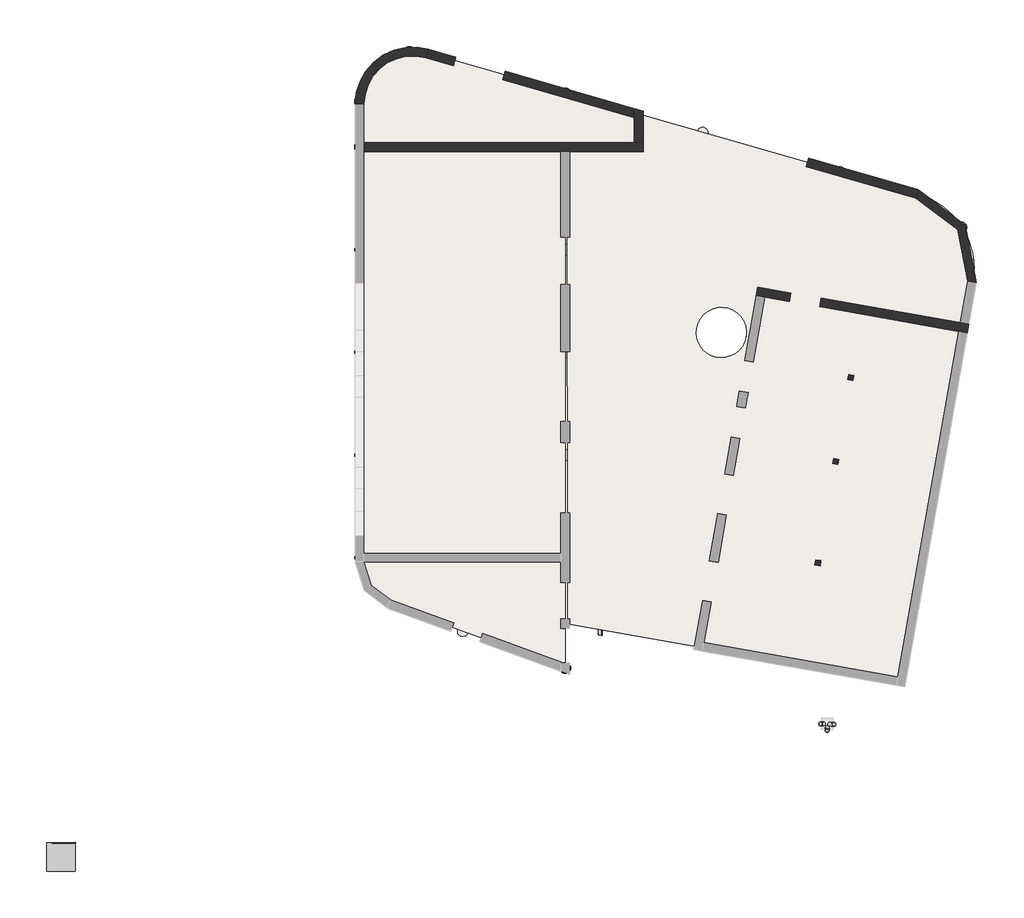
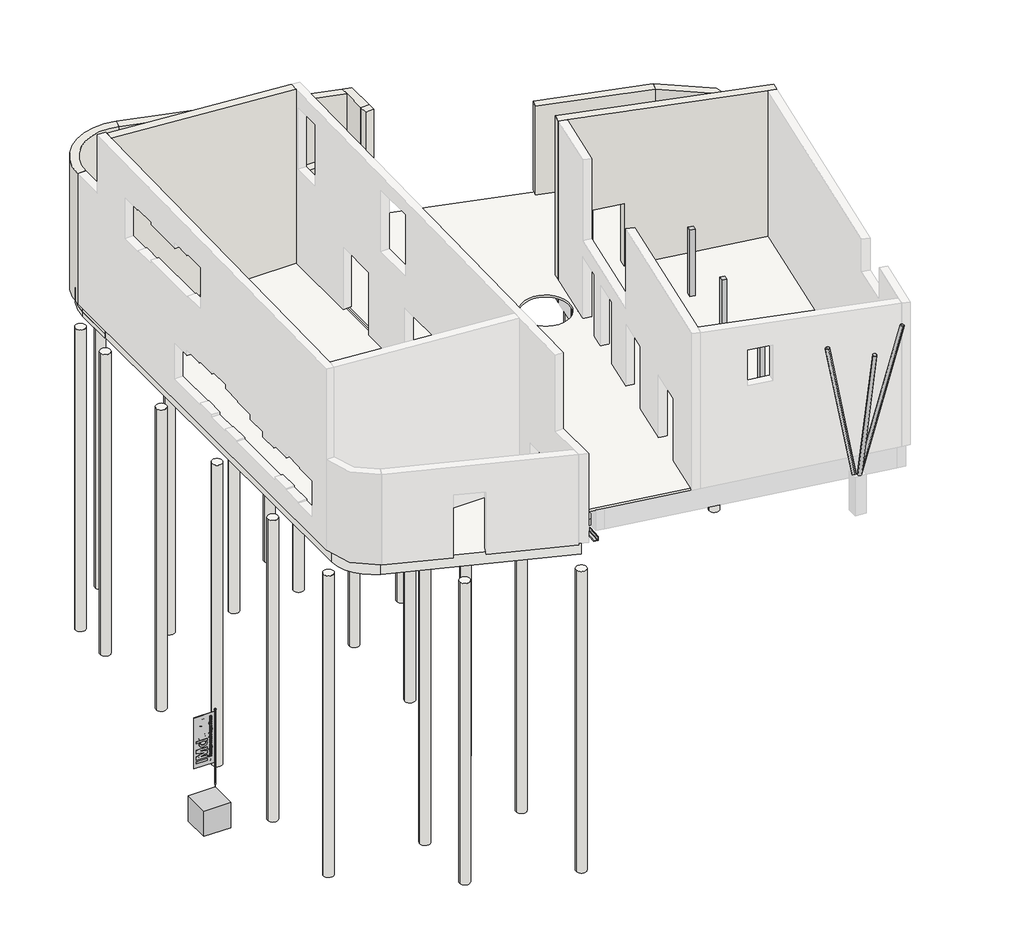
# One storey, part 2 of 2: 22 footings, 10 beams, 7 walls, 5 slabs, 3 columns, 1 geographic element.
"""IFC4 building model written with IfcOpenShell, lengths in millimetres."""

from ifc_helpers import new_model, si_unit, point, frame, frame_2d, origin, origin_with_axes, place, context, project, spatial, polyline, circle_curve, trimmed, segment, composite_curve, outline, extrude, faceted_brep, transform, mapped, element, save
from components import l150x150x15_ea1ecd1c, nlrs_28_sf_lib_balk_buis_generiek_isr_22184801, nlrs_28_sf_lib_balk_buis_generiek_isr_847ffcc4, nlrs_28_sf_lib_balk_buis_generiek_isr_6dce7139, column_180x180_gl_39b06fff, footing_31d2c532, geographic_element_c72ebb9d

model = new_model("IFC4")

# Units and contexts
model_context = context("Model", 3, world=origin())
ifc_project = project(units=[si_unit("LENGTHUNIT", "METRE", prefix="MILLI")], contexts=[model_context])

# Site, building, storey
site = spatial("IfcSite", under=ifc_project)
building = spatial("IfcBuilding", under=site)
storey = spatial("IfcBuildingStorey", under=building, Name="00 begane grond b.k. ruwe vloer", Elevation=-70.0)

# Beams
placement = place(None, origin())
element("IfcBeam", 1, ObjectType="NLRS_16_WA Funderingsbalk_beton_prefab_300x810", at=placement, inside=storey, context=model_context, shape_type="Brep", body=[
    faceted_brep([(23878.2305971, 19190.619915, -890.0), (24173.685605, 19138.5974359, -890.0), (30861.3610293, 17961.0595862, -890.0), (30861.3610293, 17961.0595862, -80.0), (24173.685605, 19138.5974359, -80.0), (23878.2305971, 19190.619915, -80.0), (23930.2530762, 19486.0749228, -890.0), (23930.2530762, 19486.0749228, -80.0), (30913.4457286, 18256.5036386, -80.0), (30913.4457286, 18256.5036386, -890.0)], [[[0, 1, 2, 3, 4, 5]], [[6, 7, 8, 9]], [[2, 1, 0, 6, 9]], [[5, 4, 3, 8, 7]], [[0, 5, 7, 6]], [[3, 2, 9, 8]]]),
])
element("IfcBeam", 2, ObjectType="NLRS_16_WA Funderingsbalk_beton_prefab_300x810", at=placement, inside=storey, context=model_context, shape_type="SweptSolid", body=[
    extrude(outline(composite_curve([segment(polyline([(31467.7293021, 19672.6543364), (31172.2852563, 19724.7390344)]), True, "CONTINUOUS"), segment(trimmed(circle_curve(frame_2d((28652.1475452, 20169.021509)), 2559.0), [point((31172.2852563, 19724.7390344))], [point((31195.3065862, 20453.315533))], True, "CARTESIAN"), True, "CONTINUOUS"), segment(polyline([(31195.3065862, 20453.315533), (31498.2699561, 20440.0717295)]), True, "CONTINUOUS"), segment(trimmed(circle_curve(frame_2d((28652.1475452, 20169.021509)), 2859.0), [point((31498.2699561, 20440.0717295))], [point((31467.7293021, 19672.6543364))], False, "CARTESIAN"), True, "CONTINUOUS")], self_intersect=False)), frame((0.0, 0.0, -890.0), z_axis=(0.0, 0.0, 1.0), x_axis=(1.0, 0.0, 0.0)), (0.0, 0.0, 1.0), 810.0),
])
element("IfcBeam", 3, ObjectType="NLRS_16_WA Funderingsbalk_beton_prefab_300x810", at=placement, inside=storey, context=model_context, shape_type="SweptSolid", body=[
    extrude(outline(polyline([(27358.613544, 16441.6160084), (27306.591065, 16146.1610005), (27011.1360571, 16198.1834796), (27063.1585361, 16493.6384874), (27358.613544, 16441.6160084)])), frame((0.0, 0.0, -890.0), z_axis=(0.0, 0.0, 1.0), x_axis=(1.0, 0.0, 0.0)), (0.0, 0.0, 1.0), 810.0),
])
element("IfcBeam", 4, ObjectType="NLRS_16_WA Funderingsbalk_beton_prefab_300x810", at=placement, inside=storey, context=model_context, shape_type="SweptSolid", body=[
    extrude(outline(composite_curve([segment(trimmed(circle_curve(frame_2d((28652.1475452, 20169.021509)), 2859.0), [point((31453.0748743, 20742.3338997))], [point((31498.2699561, 20440.0717295))], False, "CARTESIAN"), True, "CONTINUOUS"), segment(polyline([(31498.2699561, 20440.0717295), (31195.2654149, 20453.3173328), (31145.9156572, 20755.7611213), (31453.0748743, 20742.3338997)]), True, "CONTINUOUS")], self_intersect=False)), frame((0.0, 0.0, -890.0), z_axis=(0.0, 0.0, 1.0), x_axis=(1.0, 0.0, 0.0)), (0.0, 0.0, 1.0), 810.0),
])
element("IfcBeam", 5, ObjectType="NLRS_16_WA Funderingsbalk_beton_prefab_150x810", at=placement, inside=storey, context=model_context, shape_type="Brep", body=[
    faceted_brep([(20188.339926, 16663.7126106, -890.0), (20336.061089, 16637.6653839, -890.0), (21960.9415278, 16351.1551221, -890.0), (21960.9415278, 16351.1551221, -80.0), (20336.061089, 16637.6653839, -80.0), (20188.339926, 16663.7126106, -80.0), (20214.3871527, 16811.4337735, -890.0), (20214.3871527, 16811.4337735, -80.0), (21986.9887544, 16498.8762851, -80.0), (21986.9887544, 16498.8762851, -890.0)], [[[0, 1, 2, 3, 4, 5]], [[6, 7, 8, 9]], [[2, 1, 0, 6, 9]], [[5, 4, 3, 8, 7]], [[0, 5, 7, 6]], [[3, 2, 9, 8]]]),
])
element("IfcBeam", 6, ObjectType="NLRS_16_WA Funderingsbalk_beton_prefab_150x810", at=placement, inside=storey, context=model_context, shape_type="SweptSolid", body=[
    extrude(outline(polyline([(23672.6945019, 17739.5254594), (23663.9952811, 17690.1897268), (23516.6033439, 17718.1040854), (23524.6441132, 17763.7055541), (23672.6945019, 17739.5254594)])), frame((0.0, 0.0, -890.0), z_axis=(0.0, 0.0, 1.0), x_axis=(1.0, 0.0, 0.0)), (0.0, 0.0, 1.0), 810.0),
])
l150x150x15_shape = l150x150x15_ea1ecd1c(model_context)
element("IfcBeam", 7, ObjectType="NLRS_28_SF_LIB_balk hoeklijn_generiek_ISR : L150x150x15", at=placement, inside=storey, context=model_context, shape_type="MappedRepresentation", body=[
    mapped(l150x150x15_shape, transform((18475.0068968, 7512.8857458, -1140.0), x_axis=(-0.04367249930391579, -0.9990459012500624, 0.0), y_axis=(0.9990459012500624, -0.04367249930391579, 0.0), z_axis=(0.0, 0.0, 1.0))),
])
nlrs_28_sf_lib_balk_buis_generiek_isr_shape = nlrs_28_sf_lib_balk_buis_generiek_isr_22184801(model_context)
element("IfcBeam", 8, ObjectType="NLRS_28_SF_LIB_balk buis_generiek_ISR : ø139.7x8", at=placement, inside=storey, context=model_context, shape_type="MappedRepresentation", body=[
    mapped(nlrs_28_sf_lib_balk_buis_generiek_isr_shape, transform((25716.7513152, 4127.4598895, 3301.4002703), x_axis=(-0.19118905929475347, -0.017539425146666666, 0.9813965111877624), y_axis=(-0.030281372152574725, -0.999259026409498, -0.023757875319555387), z_axis=(0.9810860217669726, -0.034260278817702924, 0.1905162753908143))),
])
nlrs_28_sf_lib_balk_buis_generiek_isr_2_shape = nlrs_28_sf_lib_balk_buis_generiek_isr_847ffcc4(model_context)
element("IfcBeam", 9, ObjectType="NLRS_28_SF_LIB_balk buis_generiek_ISR : ø139.7x8", at=placement, inside=storey, context=model_context, shape_type="MappedRepresentation", body=[
    mapped(nlrs_28_sf_lib_balk_buis_generiek_isr_2_shape, transform((26346.4236132, 3542.6139262, 3201.0287703), x_axis=(-0.006026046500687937, -0.19071409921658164, 0.9816271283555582), y_axis=(0.999446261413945, -0.033272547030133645, -0.0003288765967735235), z_axis=(0.03272395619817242, 0.9810815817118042, 0.1908089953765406))),
])
nlrs_28_sf_lib_balk_buis_generiek_isr_3_shape = nlrs_28_sf_lib_balk_buis_generiek_isr_6dce7139(model_context)
element("IfcBeam", 10, ObjectType="NLRS_28_SF_LIB_balk buis_generiek_ISR : ø139.7x8", at=placement, inside=storey, context=model_context, shape_type="MappedRepresentation", body=[
    mapped(nlrs_28_sf_lib_balk_buis_generiek_isr_3_shape, transform((27192.8557191, 4136.3637383, 3173.7841556), x_axis=(0.2821906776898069, -0.00896482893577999, 0.9593164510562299), y_axis=(0.03464865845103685, 0.9993991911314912, -0.0008527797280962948), z_axis=(-0.9587324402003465, 0.03347967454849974, 0.282331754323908))),
])

# Columns
column_180x180_gl_shape = column_180x180_gl_39b06fff(model_context)
element("IfcColumn", 11, ObjectType="NLRS_28_SC_TLB_kolom vierkant hout_generiek_ISR : 180x180 (GL)", at=placement, inside=storey, context=model_context, shape_type="MappedRepresentation", body=[
    mapped(column_180x180_gl_shape, transform((26036.8769212, 9820.4576345, 0.0), x_axis=(0.9848077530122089, -0.17364817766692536, 0.0), y_axis=(0.17364817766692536, 0.9848077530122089, 0.0), z_axis=(0.0, 0.0, 1.0))),
])
element("IfcColumn", 12, ObjectType="NLRS_28_SC_TLB_kolom vierkant hout_generiek_ISR : 180x180 (GL)", at=placement, inside=storey, context=model_context, shape_type="MappedRepresentation", body=[
    mapped(column_180x180_gl_shape, transform((26662.0103604, 13365.7655428, 0.0), x_axis=(0.9848077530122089, -0.17364817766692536, 0.0), y_axis=(0.17364817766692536, 0.9848077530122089, 0.0), z_axis=(0.0, 0.0, 1.0))),
])
element("IfcColumn", 13, ObjectType="NLRS_28_SC_TLB_kolom vierkant hout_generiek_ISR : 180x180 (GL)", at=placement, inside=storey, context=model_context, shape_type="MappedRepresentation", body=[
    mapped(column_180x180_gl_shape, transform((27182.9548934, 16320.1888018, 0.0), x_axis=(0.9848077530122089, -0.17364817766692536, 0.0), y_axis=(0.17364817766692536, 0.9848077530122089, 0.0), z_axis=(0.0, 0.0, 1.0))),
])

# Footings
footing_shape = footing_31d2c532(model_context)
element("IfcFooting", 14, ObjectType="NLRS_17_SFO_TLB_funderingspaal rond_gen_ISR : Type 01_ø380/450_Fd=900kN", at=placement, inside=storey, context=model_context, shape_type="MappedRepresentation", body=[
    mapped(footing_shape, transform((9984.0, 24397.0, 0.0), x_axis=(1.0, 0.0, 0.0), y_axis=(0.0, 1.0, 0.0), z_axis=(0.0, 0.0, 1.0))),
])
element("IfcFooting", 15, ObjectType="NLRS_17_SFO_TLB_funderingspaal rond_gen_ISR : Type 01_ø380/450_Fd=900kN", at=placement, inside=storey, context=model_context, shape_type="MappedRepresentation", body=[
    mapped(footing_shape, transform((17187.0, 24397.0, 0.0), x_axis=(1.0, 0.0, 0.0), y_axis=(0.0, 1.0, 0.0), z_axis=(0.0, 0.0, 1.0))),
])
element("IfcFooting", 16, ObjectType="NLRS_17_SFO_TLB_funderingspaal rond_gen_ISR : Type 01_ø380/450_Fd=900kN", at=placement, inside=storey, context=model_context, shape_type="MappedRepresentation", body=[
    mapped(footing_shape, transform((17187.0, 26276.8608353, 0.0), x_axis=(1.0, 0.0, 0.0), y_axis=(0.0, 1.0, 0.0), z_axis=(0.0, 0.0, 1.0))),
])
element("IfcFooting", 17, ObjectType="NLRS_17_SFO_TLB_funderingspaal rond_gen_ISR : Type 01_ø380/450_Fd=900kN", at=placement, inside=storey, context=model_context, shape_type="MappedRepresentation", body=[
    mapped(footing_shape, transform((17187.0, 9997.0, 0.0), x_axis=(1.0, 0.0, 0.0), y_axis=(0.0, 1.0, 0.0), z_axis=(0.0, 0.0, 1.0))),
])
element("IfcFooting", 18, ObjectType="NLRS_17_SFO_TLB_funderingspaal rond_gen_ISR : Type 01_ø380/450_Fd=900kN", at=placement, inside=storey, context=model_context, shape_type="MappedRepresentation", body=[
    mapped(footing_shape, transform((9993.0, 9997.0, 0.0), x_axis=(1.0, 0.0, 0.0), y_axis=(0.0, 1.0, 0.0), z_axis=(0.0, 0.0, 1.0))),
])
element("IfcFooting", 19, ObjectType="NLRS_17_SFO_TLB_funderingspaal rond_gen_ISR : Type 01_ø380/450_Fd=900kN", at=placement, inside=storey, context=model_context, shape_type="MappedRepresentation", body=[
    mapped(footing_shape, transform((13590.0, 9997.0, 0.0), x_axis=(1.0, 0.0, 0.0), y_axis=(0.0, 1.0, 0.0), z_axis=(0.0, 0.0, 1.0))),
])
element("IfcFooting", 20, ObjectType="NLRS_17_SFO_TLB_funderingspaal rond_gen_ISR : Type 01_ø380/450_Fd=900kN", at=placement, inside=storey, context=model_context, shape_type="MappedRepresentation", body=[
    mapped(footing_shape, transform((17187.0, 6122.4716821, 0.0), x_axis=(1.0, 0.0, 0.0), y_axis=(0.0, 1.0, 0.0), z_axis=(0.0, 0.0, 1.0))),
])
element("IfcFooting", 21, ObjectType="NLRS_17_SFO_TLB_funderingspaal rond_gen_ISR : Type 01_ø380/450_Fd=900kN", at=placement, inside=storey, context=model_context, shape_type="MappedRepresentation", body=[
    mapped(footing_shape, transform((19768.6696057, 22197.0, 0.0), x_axis=(1.0, 0.0, 0.0), y_axis=(0.0, 1.0, 0.0), z_axis=(0.0, 0.0, 1.0))),
])
element("IfcFooting", 22, ObjectType="NLRS_17_SFO_TLB_funderingspaal rond_gen_ISR : Type 01_ø380/450_Fd=900kN", at=placement, inside=storey, context=model_context, shape_type="MappedRepresentation", body=[
    mapped(footing_shape, transform((31063.5922916, 21580.8594844, 0.0), x_axis=(1.0, 0.0, 0.0), y_axis=(0.0, 1.0, 0.0), z_axis=(0.0, 0.0, 1.0))),
])
element("IfcFooting", 23, ObjectType="NLRS_17_SFO_TLB_funderingspaal rond_gen_ISR : Type 01_ø380/450_Fd=900kN", at=placement, inside=storey, context=model_context, shape_type="MappedRepresentation", body=[
    mapped(footing_shape, transform((21993.3084797, 24898.6740562, 0.0), x_axis=(1.0, 0.0, 0.0), y_axis=(0.0, 1.0, 0.0), z_axis=(0.0, 0.0, 1.0))),
])
element("IfcFooting", 24, ObjectType="NLRS_17_SFO_TLB_funderingspaal rond_gen_ISR : Type 01_ø380/450_Fd=900kN", at=placement, inside=storey, context=model_context, shape_type="MappedRepresentation", body=[
    mapped(footing_shape, transform((26799.6169594, 23520.4872771, 0.0), x_axis=(1.0, 0.0, 0.0), y_axis=(0.0, 1.0, 0.0), z_axis=(0.0, 0.0, 1.0))),
])
element("IfcFooting", 25, ObjectType="NLRS_17_SFO_TLB_funderingspaal rond_gen_ISR : Type 01_ø380/450_Fd=900kN", at=placement, inside=storey, context=model_context, shape_type="MappedRepresentation", body=[
    mapped(footing_shape, transform((12385.0, 24397.0, 0.0), x_axis=(1.0, 0.0, 0.0), y_axis=(0.0, 1.0, 0.0), z_axis=(0.0, 0.0, 1.0))),
])
element("IfcFooting", 26, ObjectType="NLRS_17_SFO_TLB_funderingspaal rond_gen_ISR : Type 01_ø380/450_Fd=900kN", at=placement, inside=storey, context=model_context, shape_type="MappedRepresentation", body=[
    mapped(footing_shape, transform((14786.0, 24397.0, 0.0), x_axis=(1.0, 0.0, 0.0), y_axis=(0.0, 1.0, 0.0), z_axis=(0.0, 0.0, 1.0))),
])
element("IfcFooting", 27, ObjectType="NLRS_17_SFO_TLB_funderingspaal rond_gen_ISR : Type 01_ø380/450_Fd=900kN", at=placement, inside=storey, context=model_context, shape_type="MappedRepresentation", body=[
    mapped(footing_shape, transform((13590.0, 7428.0413225, 0.0), x_axis=(1.0, 0.0, 0.0), y_axis=(0.0, 1.0, 0.0), z_axis=(0.0, 0.0, 1.0))),
])
element("IfcFooting", 28, ObjectType="NLRS_17_SFO_TLB_funderingspaal rond_gen_ISR : Type 01_ø380/450_Fd=900kN", at=placement, inside=storey, context=model_context, shape_type="MappedRepresentation", body=[
    mapped(footing_shape, transform((9984.0, 25998.7181916, 0.0), x_axis=(1.0, 0.0, 0.0), y_axis=(0.0, 1.0, 0.0), z_axis=(0.0, 0.0, 1.0))),
])
element("IfcFooting", 29, ObjectType="NLRS_17_SFO_TLB_funderingspaal rond_gen_ISR : Type 01_ø380/450_Fd=900kN", at=placement, inside=storey, context=model_context, shape_type="MappedRepresentation", body=[
    mapped(footing_shape, transform((11719.4566353, 27734.1748269, 0.0), x_axis=(1.0, 0.0, 0.0), y_axis=(0.0, 1.0, 0.0), z_axis=(0.0, 0.0, 1.0))),
])
element("IfcFooting", 30, ObjectType="NLRS_17_SFO_TLB_funderingspaal rond_gen_ISR : Type 01_ø380/450_Fd=900kN", at=placement, inside=storey, context=model_context, shape_type="MappedRepresentation", body=[
    mapped(footing_shape, transform((17187.0, 13597.0, 0.0), x_axis=(1.0, 0.0, 0.0), y_axis=(0.0, 1.0, 0.0), z_axis=(0.0, 0.0, 1.0))),
])
element("IfcFooting", 31, ObjectType="NLRS_17_SFO_TLB_funderingspaal rond_gen_ISR : Type 01_ø380/450_Fd=900kN", at=placement, inside=storey, context=model_context, shape_type="MappedRepresentation", body=[
    mapped(footing_shape, transform((9993.0, 13597.0, 0.0), x_axis=(1.0, 0.0, 0.0), y_axis=(0.0, 1.0, 0.0), z_axis=(0.0, 0.0, 1.0))),
])
element("IfcFooting", 32, ObjectType="NLRS_17_SFO_TLB_funderingspaal rond_gen_ISR : Type 01_ø380/450_Fd=900kN", at=placement, inside=storey, context=model_context, shape_type="MappedRepresentation", body=[
    mapped(footing_shape, transform((17187.0, 17197.0, 0.0), x_axis=(1.0, 0.0, 0.0), y_axis=(0.0, 1.0, 0.0), z_axis=(0.0, 0.0, 1.0))),
])
element("IfcFooting", 33, ObjectType="NLRS_17_SFO_TLB_funderingspaal rond_gen_ISR : Type 01_ø380/450_Fd=900kN", at=placement, inside=storey, context=model_context, shape_type="MappedRepresentation", body=[
    mapped(footing_shape, transform((9993.0, 17197.0, 0.0), x_axis=(1.0, 0.0, 0.0), y_axis=(0.0, 1.0, 0.0), z_axis=(0.0, 0.0, 1.0))),
])
element("IfcFooting", 34, ObjectType="NLRS_17_SFO_TLB_funderingspaal rond_gen_ISR : Type 01_ø380/450_Fd=900kN", at=placement, inside=storey, context=model_context, shape_type="MappedRepresentation", body=[
    mapped(footing_shape, transform((17187.0, 20797.0, 0.0), x_axis=(1.0, 0.0, 0.0), y_axis=(0.0, 1.0, 0.0), z_axis=(0.0, 0.0, 1.0))),
])
element("IfcFooting", 35, ObjectType="NLRS_17_SFO_TLB_funderingspaal rond_gen_ISR : Type 01_ø380/450_Fd=900kN", at=placement, inside=storey, context=model_context, shape_type="MappedRepresentation", body=[
    mapped(footing_shape, transform((9993.0, 20797.0, 0.0), x_axis=(1.0, 0.0, 0.0), y_axis=(0.0, 1.0, 0.0), z_axis=(0.0, 0.0, 1.0))),
])

# Geographic element
geographic_element_shape = geographic_element_c72ebb9d(model_context)
element("IfcGeographicElement", 36, ObjectType="90_Site_Nulpunt kubus IMd (terrein) : 90_Kubus 1x1x1m", at=placement, inside=storey, context=model_context, shape_type="MappedRepresentation", body=[
    mapped(geographic_element_shape, transform((0.0, 0.0, 0.0), x_axis=(0.0, -1.0, 0.0), y_axis=(1.0, 0.0, 0.0), z_axis=(0.0, 0.0, 1.0))),
])

# Slabs
element("IfcSlab", 37, ObjectType="NLRS_23_FL Kanaalplaat_d=260_druklaag_d=70_geisoleerd_rc4", at=placement, inside=storey, context=model_context, shape_type="SweptSolid", body=[
    extrude(outline(composite_curve([segment(polyline([(17178.0, 24397.0), (17178.0, 6122.4716821), (11008.6060699, 8367.3360674)]), True, "CONTINUOUS"), segment(trimmed(circle_curve(frame_2d((11547.242935, 9847.6317271)), 1575.2475718), [point((11008.6060699, 8367.3360674))], [point((9975.0, 9750.3842802))], False, "CARTESIAN"), True, "CONTINUOUS"), segment(polyline([(9975.0, 9750.3842802), (9975.0, 24397.0), (17178.0, 24397.0)]), True, "CONTINUOUS")], self_intersect=False)), frame((0.0, 0.0, -540.0), z_axis=(0.0, 0.0, 1.0), x_axis=(1.0, 0.0, 0.0)), (0.0, 0.0, 1.0), 470.0),
])
element("IfcSlab", 38, ObjectType="NLRS_23_FL Beton_ihwg_d=80", at=placement, inside=storey, context=model_context, shape_type="SweptSolid", body=[
    extrude(outline(composite_curve([segment(polyline([(17260.5531417, 7673.8382916), (17257.1152941, 24379.9369021), (19838.7848451, 24380.4681684), (19838.5476671, 25533.0263525), (29546.7770479, 22751.3983091)]), True, "CONTINUOUS"), segment(trimmed(circle_curve(frame_2d((28800.6113402, 20147.1867707)), 2709.0), [point((29546.7770479, 22751.3983091))], [point((31468.4710742, 19676.8619471))], False, "CARTESIAN"), True, "CONTINUOUS"), segment(polyline([(31468.4710742, 19676.8619471), (28987.876594, 5605.9947554), (17260.5531417, 7673.8382916)]), True, "CONTINUOUS")], self_intersect=False), holes=[composite_curve([segment(trimmed(circle_curve(frame_2d((22654.2928972, 17893.6623195)), 880.0), [point((22448.2750623, 17038.1176675))], [point((21787.6302715, 18046.292242))], True, "CARTESIAN"), True, "CONTINUOUS"), segment(trimmed(circle_curve(frame_2d((22654.2928972, 17893.6623195)), 880.0), [point((21787.6302715, 18046.292242))], [point((22448.2750623, 17038.1176675))], True, "CARTESIAN"), True, "CONTINUOUS")], self_intersect=False)]), frame((0.0, 0.0, -80.0), z_axis=(0.0, 0.0, 1.0), x_axis=(1.0, 0.0, 0.0)), (0.0, 0.0, 1.0), 80.0),
])
element("IfcSlab", 39, ObjectType="NLRS_23_FL Beton_ihwg_d=300", at=placement, inside=storey, context=model_context, shape_type="SweptSolid", body=[
    extrude(outline(composite_curve([segment(polyline([(19794.6667197, 24362.0), (9936.7844677, 24362.0), (9936.7844677, 25758.7243934)]), True, "CONTINUOUS"), segment(trimmed(circle_curve(frame_2d((11928.5359993, 25758.7243934)), 1991.7515316), [point((9936.7844677, 25758.7243934))], [point((12477.5602243, 27673.3122248))], False, "CARTESIAN"), True, "CONTINUOUS"), segment(polyline([(12477.5602243, 27673.3122248), (19794.6667197, 25575.0701609), (19794.6667197, 24362.0)]), True, "CONTINUOUS")], self_intersect=False)), frame((0.0, 0.0, -370.0), z_axis=(0.0, 0.0, 1.0), x_axis=(1.0, 0.0, 0.0)), (0.0, 0.0, 1.0), 300.0),
])
element("IfcSlab", 40, ObjectType="NLRS_23_FL Beton_ihwg_d=170", at=placement, inside=storey, context=model_context, shape_type="SweptSolid", body=[
    extrude(outline(composite_curve([segment(polyline([(19794.6667197, 24362.0), (9936.7844677, 24362.0), (9936.7844677, 25758.7243934)]), True, "CONTINUOUS"), segment(trimmed(circle_curve(frame_2d((11928.5359993, 25758.7243934)), 1991.7515316), [point((9936.7844677, 25758.7243934))], [point((12477.5602243, 27673.3122248))], False, "CARTESIAN"), True, "CONTINUOUS"), segment(polyline([(12477.5602243, 27673.3122248), (19794.6667197, 25575.0701609), (19794.6667197, 24362.0)]), True, "CONTINUOUS")], self_intersect=False), holes=[composite_curve([segment(polyline([(19509.6696057, 25358.0489118), (12269.9126762, 27434.0158054)]), True, "CONTINUOUS"), segment(trimmed(circle_curve(frame_2d((11827.2162762, 25890.1499858)), 1606.0827411), [point((12269.9126762, 27434.0158054))], [point((10225.0, 26001.5267138))], True, "CARTESIAN"), True, "CONTINUOUS"), segment(polyline([(10225.0, 26001.5267138), (10225.0, 24650.0), (19509.6696057, 24650.0), (19509.6696057, 25358.0489118)]), True, "CONTINUOUS")], self_intersect=False)]), frame((0.0, 0.0, -540.0), z_axis=(0.0, 0.0, 1.0), x_axis=(1.0, 0.0, 0.0)), (0.0, 0.0, 1.0), 170.0),
])
element("IfcSlab", 41, ObjectType="NLRS_23_FL Kanaalplaat_d=260", at=placement, inside=storey, context=model_context, shape_type="SweptSolid", body=[
    extrude(outline(polyline([(18651.691873, 7776.5849037), (17425.0, 7992.883778), (17425.0, 24150.0), (19509.6696057, 24150.0), (19509.6696057, 21114.2871381), (19234.738949, 21114.2871381), (18651.691873, 7776.5849037)])), frame((0.0, 0.0, -890.0), z_axis=(0.0, 0.0, 1.0), x_axis=(1.0, 0.0, 0.0)), (0.0, 0.0, 1.0), 260.0),
    extrude(outline(composite_curve([segment(polyline([(20009.6696057, 21092.4300346), (20009.6696057, 25214.6762189), (29442.362686, 22509.8950028)]), True, "CONTINUOUS"), segment(trimmed(circle_curve(frame_2d((28762.9166039, 20140.3849224)), 2465.0), [point((29442.362686, 22509.8950028))], [point((31183.9343521, 20603.9559127))], False, "CARTESIAN"), True, "CONTINUOUS"), segment(polyline([(31183.9343521, 20603.9559127), (20009.6696057, 21092.4300346)]), True, "CONTINUOUS")], self_intersect=False)), frame((0.0, 0.0, -890.0), z_axis=(0.0, 0.0, 1.0), x_axis=(1.0, 0.0, 0.0)), (0.0, 0.0, 1.0), 260.0),
])

# Walls
element("IfcWall", 42, ObjectType="NLRS_28_WA HSB_d=271", at=placement, inside=storey, context=model_context, shape_type="Brep", body=[
    faceted_brep([(19912.6696057, 24550.0, 0.0), (19606.6696057, 24550.0, 0.0), (10125.0, 24550.0, 0.0), (10125.0, 24550.0, 7346.5555355), (17025.0, 24550.0, 6861.7088905), (17025.0, 24550.0, 3500.0), (17331.0, 24550.0, 3500.0), (19606.6696057, 24550.0, 3500.0), (19606.6696057, 24550.0, 5050.0), (19912.6696057, 24550.0, 5050.0), (19912.6696057, 24244.0, 0.0), (19912.6696057, 24244.0, 5050.0), (19606.6696057, 24244.0, 5050.0), (19606.6696057, 24244.0, 3500.0), (17331.0, 24244.0, 3500.0), (17025.0, 24244.0, 3500.0), (17025.0, 24244.0, 6855.5433566), (10125.0, 24244.0, 7340.3900016), (10125.0, 24244.0, 0.0), (17025.0, 24244.0, 0.0), (17331.0, 24244.0, 0.0)], [[[0, 1, 2, 3, 4, 5, 6, 7, 8, 9]], [[10, 11, 12, 13, 14, 15, 16, 17, 18, 19, 20]], [[0, 9, 11, 10]], [[4, 3, 17, 16]], [[2, 1, 0, 10, 20, 19, 18]], [[7, 6, 5, 15, 14, 13]], [[5, 4, 16, 15]], [[3, 2, 18, 17]], [[8, 7, 13, 12]], [[9, 8, 12, 11]]]),
])
element("IfcWall", 43, ObjectType="NLRS_28_WA HSB_d=271", at=placement, inside=storey, context=model_context, shape_type="Brep", body=[
    faceted_brep([(19912.6696057, 24550.0, 0.0), (19912.6696057, 25663.9807995, 0.0), (19912.6696057, 25663.9807995, 5050.0), (19912.6696057, 24550.0, 5050.0), (19606.6696057, 24550.0, 0.0), (19606.6696057, 24550.0, 3500.0), (19606.6696057, 24550.0, 5050.0), (19606.6696057, 25433.4226279, 5050.0), (19606.6696057, 25751.7654337, 5050.0), (19606.6696057, 25751.7654337, 0.0)], [[[0, 1, 2, 3]], [[4, 5, 6, 7, 8, 9]], [[0, 3, 6, 5, 4]], [[1, 0, 4, 9]], [[3, 2, 8, 7, 6]], [[2, 1, 9, 8]]]),
])
element("IfcWall", 44, ObjectType="NLRS_28_WA HSB_d=271", at=placement, inside=storey, context=model_context, shape_type="SweptSolid", body=[
    extrude(outline(composite_curve([segment(polyline([(12382.0928301, 27824.3367718), (12297.7117869, 27530.2010216)]), True, "CONTINUOUS"), segment(trimmed(circle_curve(frame_2d((11828.0781319, 25893.1503036)), 1703.0827411), [point((12297.7117869, 27530.2010216))], [point((10125.0, 25897.1125942))], True, "CARTESIAN"), True, "CONTINUOUS"), segment(polyline([(10125.0, 25897.1125942), (9819.0, 25897.453859)]), True, "CONTINUOUS"), segment(trimmed(circle_curve(frame_2d((11828.0781319, 25893.1503036)), 2009.0827411), [point((9819.0, 25897.453859))], [point((12382.0928301, 27824.3367718))], False, "CARTESIAN"), True, "CONTINUOUS")], self_intersect=False)), frame((0.0, 0.0, -70.0), z_axis=(0.0, 0.0, 1.0), x_axis=(1.0, 0.0, 0.0)), (0.0, 0.0, 1.0), 5120.0),
])
element("IfcWall", 45, ObjectType="NLRS_28_WA HSB_d=271", at=placement, inside=storey, context=model_context, shape_type="Brep", body=[
    faceted_brep([(19606.6696057, 25751.7654337, -70.0), (15075.0460739, 27051.7880286, -70.0), (15075.0460739, 27051.7880286, 2400.0), (13344.8357786, 27548.1471065, 2400.0), (13344.8357786, 27548.1471065, -70.0), (12382.0928301, 27824.3367718, -70.0), (12382.0928301, 27824.3367718, 5050.0), (19606.6696057, 25751.7654337, 5050.0), (19606.6696057, 25751.7654337, 0.0), (19606.6696057, 25433.4226279, -70.0), (19606.6696057, 25433.4226279, 5050.0), (12297.7117869, 27530.2010216, 5050.0), (12297.7117869, 27530.2010216, -70.0), (13260.4547354, 27254.0113564, -70.0), (13260.4547354, 27254.0113564, 2400.0), (14990.6650306, 26757.6522784, 2400.0), (14990.6650306, 26757.6522784, -70.0)], [[[0, 1, 2, 3, 4, 5, 6, 7, 8]], [[9, 10, 11, 12, 13, 14, 15, 16]], [[1, 0, 9, 16]], [[6, 5, 12, 11]], [[7, 6, 11, 10]], [[2, 1, 16, 15]], [[3, 2, 15, 14]], [[4, 3, 14, 13]], [[5, 4, 13, 12]], [[0, 8, 7, 10, 9]]]),
])
element("IfcWall", 46, ObjectType="NLRS_28_WA HSB_d=271", at=placement, inside=storey, context=model_context, shape_type="SweptSolid", body=[
    extrude(outline(polyline([(25709.2249531, 24002.716479), (29553.5307824, 22900.379521), (29469.1857515, 22606.2334421), (25624.8799223, 23708.5704001), (25709.2249531, 24002.716479)])), origin_with_axes(), (0.0, 0.0, 1.0), 3500.0),
])
element("IfcWall", 47, ObjectType="NLRS_28_WA HSB_d=271", at=placement, inside=storey, context=model_context, shape_type="Brep", body=[
    faceted_brep([(31325.3226674, 18185.2080192, 0.0), (26151.867773, 19097.4277006, 0.0), (26151.867773, 19097.4277006, 2470.0), (25084.3361688, 19285.6623251, 2470.0), (25084.3361688, 19285.6623251, 0.0), (23927.8617152, 19489.5799738, 0.0), (23927.8617152, 19489.5799738, 6274.6997505), (31325.3226674, 18185.2080192, 5728.6161693), (31325.3226674, 18185.2080192, 3500.0), (31272.1962753, 17883.8550923, 0.0), (31272.1962753, 17883.8550923, 3500.0), (31272.1962753, 17883.8550923, 5726.277334), (30970.8451027, 17936.9914347, 5748.5232003), (24176.0765452, 19135.092459, 6250.1157835), (23874.7253728, 19188.2288014, 6272.3616498), (23874.7253728, 19188.2288014, 0.0), (24176.0765452, 19135.092459, 0.0), (25031.1998264, 18984.3111527, 0.0), (25031.1998264, 18984.3111527, 2470.0), (26098.7314307, 18796.0765281, 2470.0), (26098.7314307, 18796.0765281, 0.0)], [[[0, 1, 2, 3, 4, 5, 6, 7, 8]], [[9, 10, 11, 12, 13, 14, 15, 16, 17, 18, 19, 20]], [[6, 5, 15, 14]], [[7, 6, 14, 13, 12, 11]], [[1, 0, 9, 20]], [[2, 1, 20, 19]], [[3, 2, 19, 18]], [[4, 3, 18, 17]], [[5, 4, 17, 16, 15]], [[0, 8, 7, 11, 10, 9]]]),
])
element("IfcWall", 48, ObjectType="NLRS_28_WA HSB_d=271", at=placement, inside=storey, context=model_context, shape_type="SweptSolid", body=[
    extrude(outline(composite_curve([segment(polyline([(31583.9174439, 19652.0551029), (31282.5662715, 19705.1914453)]), True, "CONTINUOUS"), segment(trimmed(circle_curve(frame_2d((28765.3976548, 20149.0361874)), 2556.0), [point((31282.5662715, 19705.1914453))], [point((29469.2276012, 22606.2214483))], True, "CARTESIAN"), True, "CONTINUOUS"), segment(polyline([(29469.2276012, 22606.2214483), (29553.4889328, 22900.3915148)]), True, "CONTINUOUS"), segment(trimmed(circle_curve(frame_2d((28765.3976548, 20149.0361874)), 2862.0), [point((29553.4889328, 22900.3915148))], [point((31583.9174439, 19652.0551029))], False, "CARTESIAN"), True, "CONTINUOUS")], self_intersect=False)), origin_with_axes(), (0.0, 0.0, 1.0), 3500.0),
])

save(model, "model.ifc")
